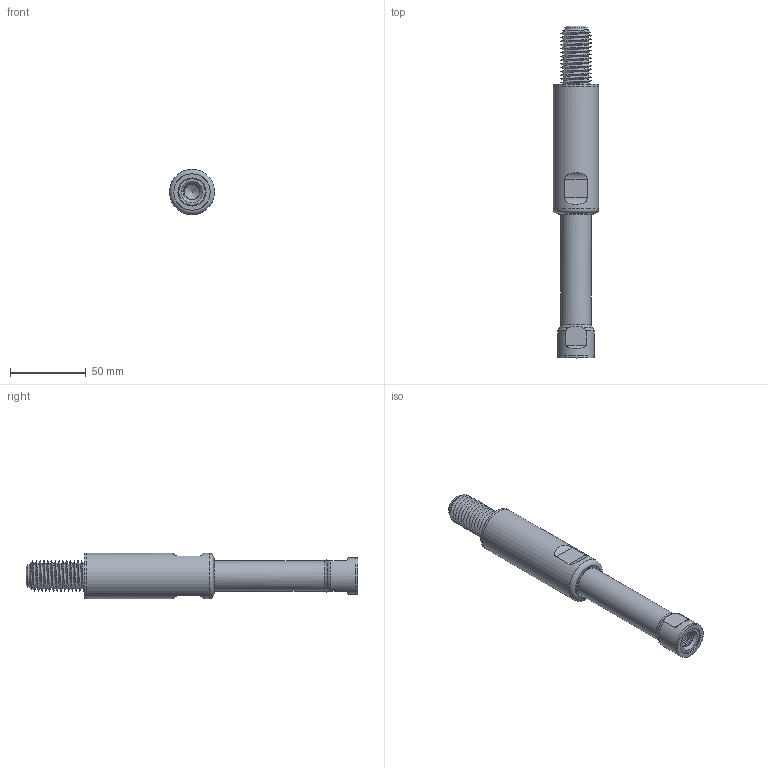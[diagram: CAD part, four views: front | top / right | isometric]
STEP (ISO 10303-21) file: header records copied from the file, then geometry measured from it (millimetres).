
FILE_DESCRIPTION(/* description */ (''),/* implementation_level */ '2;1');
FILE_NAME(/* name */ '\\NAS-MODULA\Backup-nas\Pubblica\DISEGNI 2017\3. LINEA TEKNOCLEAN\STELO SUPPORTO RUOTA\3D\SUP20200F-TC\SUP20200F-TC.stp',/* time_stamp */ '2020-05-07T15:33:31+02:00',/* author */ ('Martin'),/* organization */ (''),/* preprocessor_version */ 'ST-DEVELOPER v18.1',/* originating_system */ 'Autodesk Inventor 2021',/* authorisation */ '');
FILE_SCHEMA (('AUTOMOTIVE_DESIGN { 1 0 10303 214 3 1 1 }'));
Length unit declared in the file: millimetre
Products named in the file (6): SUP20200F-TC; V-SUP20200F-TC; BOCTC3085-3A - BOCCOLA M20 D30 H85; GE3023-3A - D30.5x23; GE2418-3A - D24.5xD18; GI2620-3A - D26xD20
Assembly tree (5 placements, depth 2):
  SUP20200F-TC
    V-SUP20200F-TC
    BOCTC3085-3A - BOCCOLA M20 D30 H85
    GE3023-3A - D30.5x23
    GE2418-3A - D24.5xD18
    GI2620-3A - D26xD20
Bounding box: 30 x 219.5 x 30 mm (x, y, z)
Volume: 94041.4 mm3; surface area: 39543.6 mm2
Topology: 5 solids, 5 shells, 96 faces, 271 edges, 192 vertices
Faces by surface type: cylinder 38, plane 28, torus 16, cone 7, bspline 7
Full cylindrical faces by diameter (mm): 10.1 x5, 15 x1, 17 x3, 18 x2, 20 x1, 20.2 x2, 22 x2, 22.8 x2, 23 x2, 24 x2, 26 x2, 27 x2, 30 x2
Entity records: 13246 total; most frequent: CARTESIAN_POINT 10476, DIRECTION 553, ORIENTED_EDGE 544, EDGE_CURVE 272, AXIS2_PLACEMENT_3D 242, VERTEX_POINT 194, CIRCLE 138, EDGE_LOOP 112
